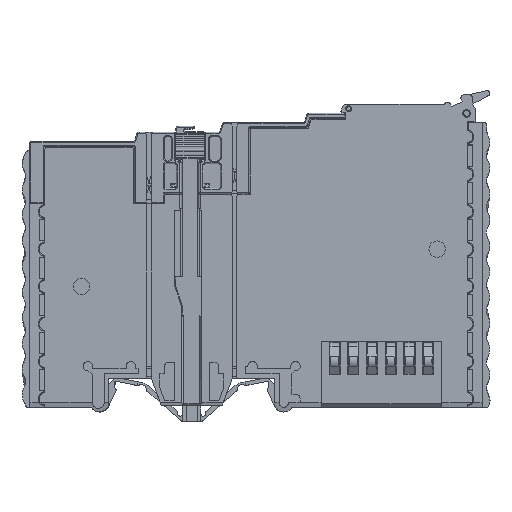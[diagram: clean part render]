
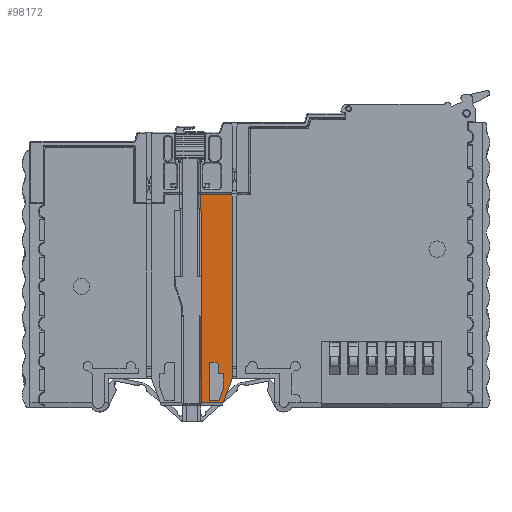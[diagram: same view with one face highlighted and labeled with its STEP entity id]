
A CAD part, top view. The second image highlights one B-rep face of the part: STEP entity #98172.
In plain terms, the highlighted planar face has unit normal (0, 0, -1).
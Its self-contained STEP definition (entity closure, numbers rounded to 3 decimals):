
#31793=DIRECTION('',(-0.371,0.928,0.));
#31794=VECTOR('',#31793,0.539);
#31795=CARTESIAN_POINT('',(43.225,45.05,14.8));
#31796=LINE('',#31795,#31794);
#31797=DIRECTION('',(1.,0.,0.));
#31798=VECTOR('',#31797,0.35);
#31799=CARTESIAN_POINT('',(36.4,42.1,14.8));
#31800=LINE('',#31799,#31798);
#31801=DIRECTION('',(0.,-1.,0.));
#31802=VECTOR('',#31801,22.7);
#31803=CARTESIAN_POINT('',(36.75,42.1,14.8));
#31804=LINE('',#31803,#31802);
#31805=DIRECTION('',(0.348,0.938,0.));
#31806=VECTOR('',#31805,5.546);
#31807=CARTESIAN_POINT('',(41.297,1.,14.8));
#31808=LINE('',#31807,#31806);
#31809=DIRECTION('',(-0.348,-0.938,0.));
#31810=VECTOR('',#31809,3.009);
#31811=CARTESIAN_POINT('',(41.425,4.221,14.8));
#31812=LINE('',#31811,#31810);
#31813=CARTESIAN_POINT('',(39.55,8.8,14.8));
#31814=DIRECTION('',(0.,0.,-1.));
#31815=DIRECTION('',(0.,1.,0.));
#31816=AXIS2_PLACEMENT_3D('',#31813,#31814,#31815);
#31827=DIRECTION('',(1.,0.,0.));
#31828=VECTOR('',#31827,6.625);
#31829=CARTESIAN_POINT('',(36.4,45.55,14.8));
#31830=LINE('',#31829,#31828);
#31863=DIRECTION('',(0.,-1.,0.));
#31864=VECTOR('',#31863,0.4);
#31865=CARTESIAN_POINT('',(36.4,42.5,14.8));
#31866=LINE('',#31865,#31864);
#31944=DIRECTION('',(0.,-1.,0.));
#31945=VECTOR('',#31944,38.85);
#31946=CARTESIAN_POINT('',(43.225,45.05,14.8));
#31947=LINE('',#31946,#31945);
#31960=DIRECTION('',(-1.,0.,0.));
#31961=VECTOR('',#31960,4.547);
#31962=CARTESIAN_POINT('',(41.297,1.,14.8));
#31963=LINE('',#31962,#31961);
#31971=DIRECTION('',(0.,-1.,0.));
#31972=VECTOR('',#31971,18.4);
#31973=CARTESIAN_POINT('',(36.75,19.4,14.8));
#31974=LINE('',#31973,#31972);
#32107=DIRECTION('',(0.,-1.,0.));
#32108=VECTOR('',#32107,3.05);
#32109=CARTESIAN_POINT('',(36.4,45.55,14.8));
#32110=LINE('',#32109,#32108);
#32127=DIRECTION('',(0.,-1.,0.));
#32128=VECTOR('',#32127,2.979);
#32129=CARTESIAN_POINT('',(41.425,7.2,14.8));
#32130=LINE('',#32129,#32128);
#32135=DIRECTION('',(1.,0.,0.));
#32136=VECTOR('',#32135,1.075);
#32137=CARTESIAN_POINT('',(40.35,7.2,14.8));
#32138=LINE('',#32137,#32136);
#32143=DIRECTION('',(0.,-1.,0.));
#32144=VECTOR('',#32143,1.6);
#32145=CARTESIAN_POINT('',(40.35,8.8,14.8));
#32146=LINE('',#32145,#32144);
#32159=DIRECTION('',(1.,0.,0.));
#32160=VECTOR('',#32159,1.275);
#32161=CARTESIAN_POINT('',(38.275,9.6,14.8));
#32162=LINE('',#32161,#32160);
#32163=DIRECTION('',(0.,-1.,0.));
#32164=VECTOR('',#32163,8.2);
#32165=CARTESIAN_POINT('',(38.275,9.6,14.8));
#32166=LINE('',#32165,#32164);
#32171=DIRECTION('',(1.,0.,0.));
#32172=VECTOR('',#32171,2.104);
#32173=CARTESIAN_POINT('',(38.275,1.4,14.8));
#32174=LINE('',#32173,#32172);
#53311=CARTESIAN_POINT('',(36.75,42.1,14.8));
#53312=CARTESIAN_POINT('',(36.75,19.4,14.8));
#53313=VERTEX_POINT('',#53311);
#53314=VERTEX_POINT('',#53312);
#53315=CARTESIAN_POINT('',(43.225,45.05,14.8));
#53316=CARTESIAN_POINT('',(43.025,45.55,14.8));
#53317=VERTEX_POINT('',#53315);
#53318=VERTEX_POINT('',#53316);
#53319=CARTESIAN_POINT('',(43.225,6.2,14.8));
#53320=VERTEX_POINT('',#53319);
#53321=CARTESIAN_POINT('',(41.297,1.,14.8));
#53322=VERTEX_POINT('',#53321);
#53323=CARTESIAN_POINT('',(36.75,1.,14.8));
#53324=VERTEX_POINT('',#53323);
#53325=CARTESIAN_POINT('',(36.4,45.55,14.8));
#53326=CARTESIAN_POINT('',(36.4,42.5,14.8));
#53327=VERTEX_POINT('',#53325);
#53328=VERTEX_POINT('',#53326);
#53329=CARTESIAN_POINT('',(41.425,4.221,14.8));
#53330=CARTESIAN_POINT('',(40.379,1.4,14.8));
#53331=VERTEX_POINT('',#53329);
#53332=VERTEX_POINT('',#53330);
#53333=CARTESIAN_POINT('',(41.425,7.2,14.8));
#53334=VERTEX_POINT('',#53333);
#53335=CARTESIAN_POINT('',(40.35,7.2,14.8));
#53336=VERTEX_POINT('',#53335);
#53337=CARTESIAN_POINT('',(40.35,8.8,14.8));
#53338=VERTEX_POINT('',#53337);
#53339=CARTESIAN_POINT('',(39.55,9.6,14.8));
#53340=VERTEX_POINT('',#53339);
#53341=CARTESIAN_POINT('',(38.275,9.6,14.8));
#53342=VERTEX_POINT('',#53341);
#53343=CARTESIAN_POINT('',(38.275,1.4,14.8));
#53344=VERTEX_POINT('',#53343);
#59895=CARTESIAN_POINT('',(36.4,42.1,14.8));
#59897=VERTEX_POINT('',#59895);
#98129=CARTESIAN_POINT('',(39.813,23.275,14.8));
#98130=DIRECTION('',(0.,0.,1.));
#98131=DIRECTION('',(1.,0.,0.));
#98132=AXIS2_PLACEMENT_3D('',#98129,#98130,#98131);
#98133=PLANE('',#98132);
#98135=ORIENTED_EDGE('',*,*,#98134,.T.);
#98137=ORIENTED_EDGE('',*,*,#98136,.F.);
#98139=ORIENTED_EDGE('',*,*,#98138,.T.);
#98141=ORIENTED_EDGE('',*,*,#98140,.T.);
#98142=ORIENTED_EDGE('',*,*,#98121,.T.);
#98143=ORIENTED_EDGE('',*,*,#98110,.T.);
#98145=ORIENTED_EDGE('',*,*,#98144,.T.);
#98147=ORIENTED_EDGE('',*,*,#98146,.F.);
#98149=ORIENTED_EDGE('',*,*,#98148,.T.);
#98151=ORIENTED_EDGE('',*,*,#98150,.F.);
#98152=EDGE_LOOP('',(#98135,#98137,#98139,#98141,#98142,#98143,#98145,#98147,
#98149,#98151));
#98153=FACE_OUTER_BOUND('',#98152,.F.);
#98155=ORIENTED_EDGE('',*,*,#98154,.T.);
#98157=ORIENTED_EDGE('',*,*,#98156,.F.);
#98159=ORIENTED_EDGE('',*,*,#98158,.F.);
#98161=ORIENTED_EDGE('',*,*,#98160,.T.);
#98163=ORIENTED_EDGE('',*,*,#98162,.T.);
#98165=ORIENTED_EDGE('',*,*,#98164,.T.);
#98167=ORIENTED_EDGE('',*,*,#98166,.T.);
#98169=ORIENTED_EDGE('',*,*,#98168,.T.);
#98170=EDGE_LOOP('',(#98155,#98157,#98159,#98161,#98163,#98165,#98167,#98169));
#98171=FACE_BOUND('',#98170,.F.);
#98172=ADVANCED_FACE('',(#98153,#98171),#98133,.F.);
#31817=CIRCLE('',#31816,0.8);
#98110=EDGE_CURVE('',#53313,#53314,#31804,.T.);
#98121=EDGE_CURVE('',#59897,#53313,#31800,.T.);
#98134=EDGE_CURVE('',#53317,#53318,#31796,.T.);
#98136=EDGE_CURVE('',#53327,#53318,#31830,.T.);
#98138=EDGE_CURVE('',#53327,#53328,#32110,.T.);
#98140=EDGE_CURVE('',#53328,#59897,#31866,.T.);
#98144=EDGE_CURVE('',#53314,#53324,#31974,.T.);
#98146=EDGE_CURVE('',#53322,#53324,#31963,.T.);
#98148=EDGE_CURVE('',#53322,#53320,#31808,.T.);
#98150=EDGE_CURVE('',#53317,#53320,#31947,.T.);
#98154=EDGE_CURVE('',#53331,#53332,#31812,.T.);
#98156=EDGE_CURVE('',#53344,#53332,#32174,.T.);
#98158=EDGE_CURVE('',#53342,#53344,#32166,.T.);
#98160=EDGE_CURVE('',#53342,#53340,#32162,.T.);
#98162=EDGE_CURVE('',#53340,#53338,#31817,.T.);
#98164=EDGE_CURVE('',#53338,#53336,#32146,.T.);
#98166=EDGE_CURVE('',#53336,#53334,#32138,.T.);
#98168=EDGE_CURVE('',#53334,#53331,#32130,.T.);
